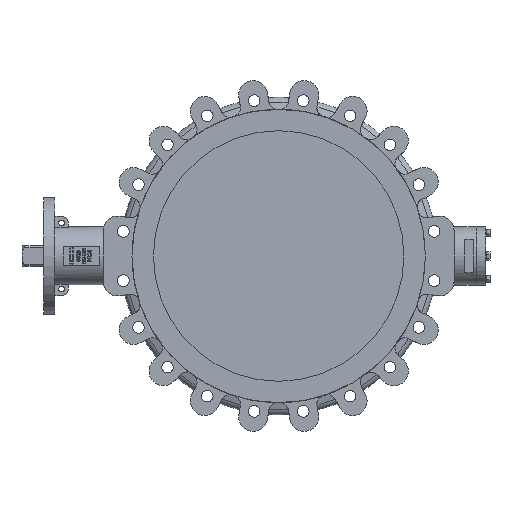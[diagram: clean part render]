
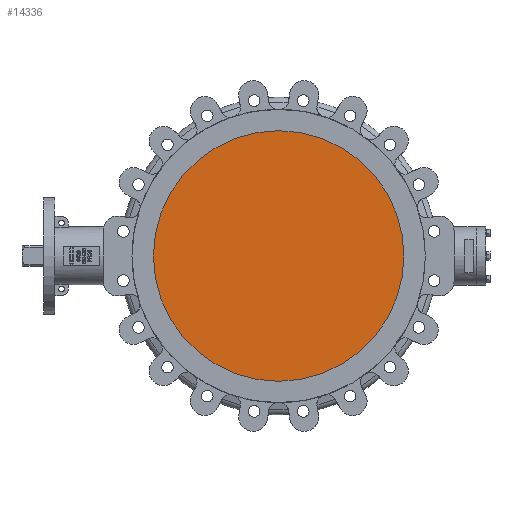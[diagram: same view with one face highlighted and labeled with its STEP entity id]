
A CAD part, left-side view. The second image highlights one B-rep face of the part: STEP entity #14336.
In plain terms, the highlighted planar face has unit normal (-1, 0, 0).
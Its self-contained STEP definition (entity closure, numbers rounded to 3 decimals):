
#578=PLANE('',#15372);
#1776=FACE_OUTER_BOUND('',#2591,.T.);
#2591=EDGE_LOOP('',(#12370));
#5345=CIRCLE('',#15371,225.);
#6621=VERTEX_POINT('',#26573);
#8566=EDGE_CURVE('',#6621,#6621,#5345,.T.);
#12370=ORIENTED_EDGE('',*,*,#8566,.F.);
#14336=ADVANCED_FACE('',(#1776),#578,.F.);
#15371=AXIS2_PLACEMENT_3D('',#26575,#18401,#18402);
#15372=AXIS2_PLACEMENT_3D('',#26576,#18403,#18404);
#18401=DIRECTION('center_axis',(1.,0.,0.));
#18402=DIRECTION('ref_axis',(0.,0.,-1.));
#18403=DIRECTION('center_axis',(1.,0.,0.));
#18404=DIRECTION('ref_axis',(0.,0.,-1.));
#26573=CARTESIAN_POINT('',(-45.787,-46.486,225.));
#26575=CARTESIAN_POINT('Origin',(-45.787,-46.486,0.));
#26576=CARTESIAN_POINT('Origin',(-45.787,-46.486,0.));
